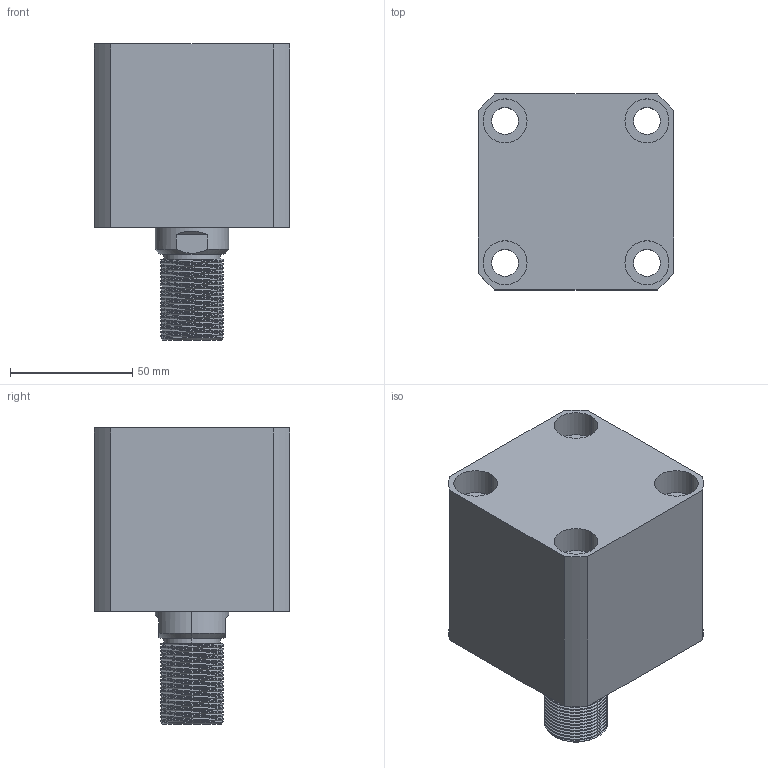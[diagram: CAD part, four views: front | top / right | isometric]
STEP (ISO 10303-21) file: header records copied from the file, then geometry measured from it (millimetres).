
FILE_DESCRIPTION (( 'STEP AP203' ), '1' );
FILE_NAME ('CHTB-SD50-15W.STEP', '2018-05-18T11:46:57', ( '' ), ( '' ), 'SwSTEP 2.0', 'SolidWorks 2015', '' );
FILE_SCHEMA (( 'CONFIG_CONTROL_DESIGN' ));
Length unit declared in the file: millimetre
Products named in the file (4): 掛极SD50-15W; 活塞杆SD50-15W; CHTM-SD50QG; CHTB-SD50-15W
Assembly tree (3 placements, depth 2):
  CHTB-SD50-15W
    掛极SD50-15W
    活塞杆SD50-15W
    CHTM-SD50QG
Bounding box: 80 x 80 x 121 mm (x, y, z)
Volume: 430194 mm3; surface area: 91963.3 mm2
Topology: 3 solids, 3 shells, 239 faces, 633 edges, 422 vertices
Faces by surface type: cylinder 145, plane 42, cone 20, bspline 16, torus 16
Entity records: 14652 total; most frequent: CARTESIAN_POINT 8763, ORIENTED_EDGE 1258, DIRECTION 1042, EDGE_CURVE 629, AXIS2_PLACEMENT_3D 426, VERTEX_POINT 422, EDGE_LOOP 279, FACE_OUTER_BOUND 239
